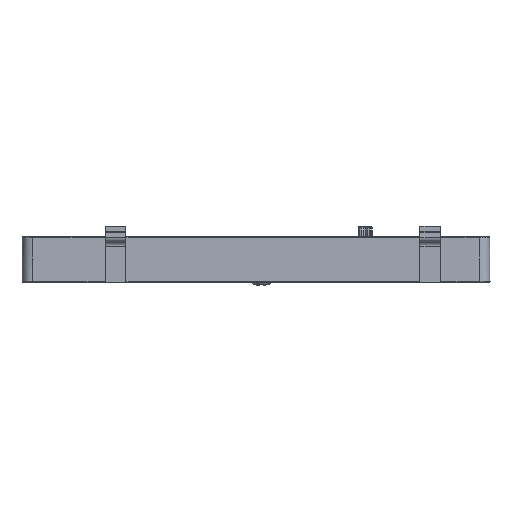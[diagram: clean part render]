
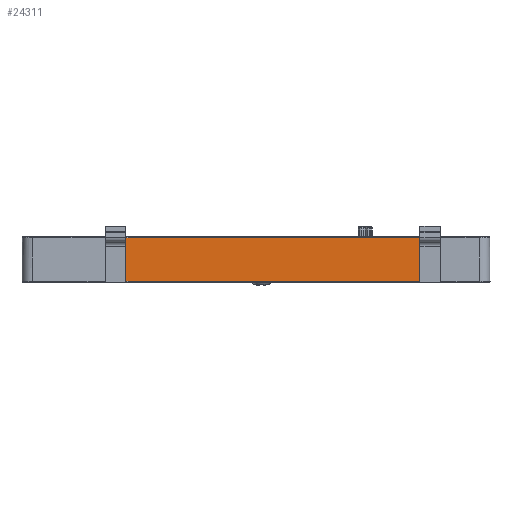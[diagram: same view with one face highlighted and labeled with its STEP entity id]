
A CAD part, front view. The second image highlights one B-rep face of the part: STEP entity #24311.
In plain terms, the highlighted planar face has unit normal (0, -1, 0.009).
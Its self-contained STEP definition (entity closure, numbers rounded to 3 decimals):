
#3679 = LINE ( 'NONE', #3681, #34197 ) ;
#3681 = CARTESIAN_POINT ( 'NONE',  ( 31.5, 0.075, 8.602 ) ) ;
#3682 = DIRECTION ( 'NONE',  ( 1., 0., 0. ) ) ;
#4742 = LINE ( 'NONE', #4743, #34267 ) ;
#4743 = CARTESIAN_POINT ( 'NONE',  ( -25., 0.002, 0.202 ) ) ;
#4744 = DIRECTION ( 'NONE',  ( 0., 0.009, 1. ) ) ;
#4745 = LINE ( 'NONE', #4746, #34258 ) ;
#4746 = CARTESIAN_POINT ( 'NONE',  ( 31.5, 0.075, 8.602 ) ) ;
#4747 = DIRECTION ( 'NONE',  ( 0., -0.009, -1. ) ) ;
#11373 = VERTEX_POINT ( 'NONE', #23290 ) ;
#11382 = VERTEX_POINT ( 'NONE', #23296 ) ;
#12578 = CARTESIAN_POINT ( 'NONE',  ( 31.5, 0.002, 0.202 ) ) ;
#12588 = CARTESIAN_POINT ( 'NONE',  ( -25., 0.002, 0.202 ) ) ;
#15458 = PLANE ( 'NONE',  #26114 ) ;
#15474 = FACE_OUTER_BOUND ( 'NONE', #42322, .T. ) ;
#15484 = CARTESIAN_POINT ( 'NONE',  ( -25., 0.075, 8.602 ) ) ;
#15485 = DIRECTION ( 'NONE',  ( 0., -1., 0.009 ) ) ;
#15486 = DIRECTION ( 'NONE',  ( 0., -0.009, -1. ) ) ;
#23290 = CARTESIAN_POINT ( 'NONE',  ( 31.5, 0.075, 8.602 ) ) ;
#23296 = CARTESIAN_POINT ( 'NONE',  ( -25., 0.075, 8.602 ) ) ;
#23869 = EDGE_CURVE ( 'NONE', #34507, #34509, #40550, .T. ) ;
#23937 = EDGE_CURVE ( 'NONE', #11382, #11373, #3679, .T. ) ;
#24023 = EDGE_CURVE ( 'NONE', #34507, #11382, #4742, .T. ) ;
#24024 = EDGE_CURVE ( 'NONE', #11373, #34509, #4745, .T. ) ;
#24311 = ADVANCED_FACE ( 'NONE', ( #15474 ), #15458, .T. ) ;
#26114 = AXIS2_PLACEMENT_3D ( 'NONE', #15484, #15485, #15486 ) ;
#30260 = ORIENTED_EDGE ( 'NONE', *, *, #23937, .F. ) ;
#30261 = ORIENTED_EDGE ( 'NONE', *, *, #24023, .F. ) ;
#30262 = ORIENTED_EDGE ( 'NONE', *, *, #23869, .T. ) ;
#30263 = ORIENTED_EDGE ( 'NONE', *, *, #24024, .F. ) ;
#34129 = VECTOR ( 'NONE', #40555, 1000. ) ;
#34197 = VECTOR ( 'NONE', #3682, 1000. ) ;
#34258 = VECTOR ( 'NONE', #4747, 1000. ) ;
#34267 = VECTOR ( 'NONE', #4744, 1000. ) ;
#34507 = VERTEX_POINT ( 'NONE', #12588 ) ;
#34509 = VERTEX_POINT ( 'NONE', #12578 ) ;
#40543 = CARTESIAN_POINT ( 'NONE',  ( -25., 0.002, 0.202 ) ) ;
#40550 = LINE ( 'NONE', #40543, #34129 ) ;
#40555 = DIRECTION ( 'NONE',  ( 1., 0., 0. ) ) ;
#42322 = EDGE_LOOP ( 'NONE', ( #30260, #30261, #30262, #30263 ) ) ;
